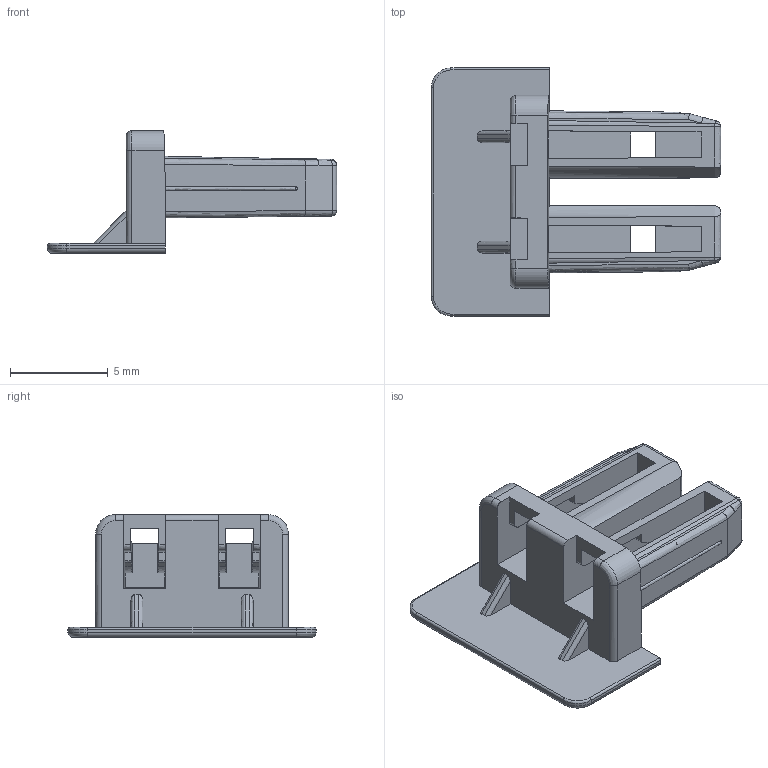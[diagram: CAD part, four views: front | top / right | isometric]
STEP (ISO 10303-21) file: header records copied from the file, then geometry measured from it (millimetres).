
FILE_DESCRIPTION(/* description */ (''),/* implementation_level */ '2;1');
FILE_NAME(/* name */ '202505~1',/* time_stamp */ '2025-05-14T16:33:02+08:00',/* author */ (''),/* organization */ (''),/* preprocessor_version */ 'ST-DEVELOPER v16.5',/* originating_system */ '',/* authorisation */ '');
FILE_SCHEMA (('AUTOMOTIVE_DESIGN'));
Length unit declared in the file: millimetre
Products named in the file (1): Document
Bounding box: 14.79 x 12.68 x 6.26 mm (x, y, z)
Volume: 223.6 mm3; surface area: 627 mm2
Topology: 1 solids, 1 shells, 152 faces, 429 edges, 274 vertices
Faces by surface type: bspline 152
Entity records: 12133 total; most frequent: CARTESIAN_POINT 6657, B_SPLINE_CURVE_WITH_KNOTS 1207, ORIENTED_EDGE 856, PCURVE 856, DEFINITIONAL_REPRESENTATION 856, SURFACE_CURVE 428, EDGE_CURVE 428, VERTEX_POINT 274
